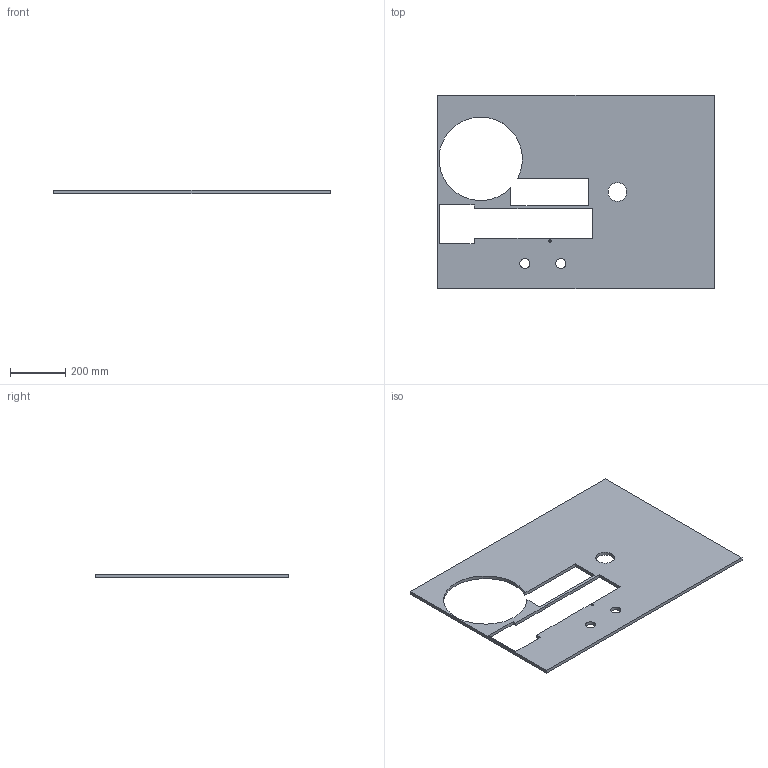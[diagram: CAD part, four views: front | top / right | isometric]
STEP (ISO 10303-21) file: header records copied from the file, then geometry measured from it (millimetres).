
FILE_DESCRIPTION(('Open CASCADE Model'),'2;1');
FILE_NAME('Open CASCADE Shape Model','2026-10-04T02:31:34',('Author'),( 'Open CASCADE'),'Open CASCADE STEP processor 8.0','Open CASCADE 8.0' ,'Unknown');
FILE_SCHEMA(('AUTOMOTIVE_DESIGN { 1 0 10303 214 1 1 1 1 }'));
Length unit declared in the file: millimetre
Products named in the file (1): Open CASCADE STEP translator 8.0 1
Bounding box: 1000 x 700 x 12 mm (x, y, z)
Volume: 6370474.4 mm3; surface area: 1144203.2 mm2
Topology: 1 solids, 1 shells, 28 faces, 78 edges, 52 vertices
Faces by surface type: plane 22, cylinder 6
Full cylindrical faces by diameter (mm): 8.6 x1, 36.6 x2, 68 x1
Entity records: 1870 total; most frequent: CARTESIAN_POINT 387, DIRECTION 232, ORIENTED_EDGE 156, PCURVE 156, DEFINITIONAL_REPRESENTATION 156, LINE 138, VECTOR 138, EDGE_CURVE 78
